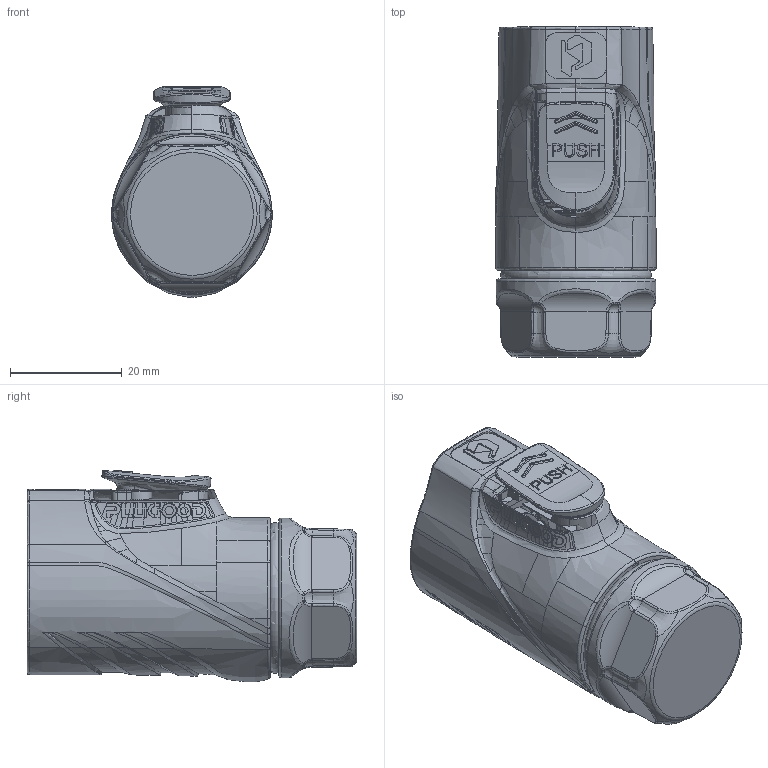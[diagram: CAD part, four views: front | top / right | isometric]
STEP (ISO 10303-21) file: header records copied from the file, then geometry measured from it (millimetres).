
FILE_DESCRIPTION (( 'STEP AP203' ), '1' );
FILE_NAME ('PLG20 3Ð¾²åÍ·.STEP', '2025-03-20T02:34:21', ( '' ), ( '' ), 'SwSTEP 2.0', 'SolidWorks 2024', '' );
FILE_SCHEMA (( 'CONFIG_CONTROL_DESIGN' ));
Products named in the file (1): PLG20 3芯插头
Bounding box: 28.77 x 59.1 x 37.93 mm (x, y, z)
Topology: 2 solids, 6 shells, 1183 faces, 3155 edges, 2000 vertices
Faces by surface type: bspline 645, plane 273, cylinder 150, torus 67, cone 38, sphere 10
Full cylindrical faces by diameter (mm): 1.5 x2, 1.519 x1, 1.6 x2, 2.5 x1, 2.65 x1, 3 x2, 3.15 x1, 3.25 x3, 4.5 x1, 16.2 x1, 17.5 x1, 17.6 x1, 19.2 x2, 19.3 x2, 19.4 x2, 22.242 x7, 28.6 x1
Entity records: 89265 total; most frequent: CARTESIAN_POINT 66033, ORIENTED_EDGE 6078, EDGE_CURVE 3039, DIRECTION 2739, VERTEX_POINT 1952, B_SPLINE_CURVE_WITH_KNOTS 1756, EDGE_LOOP 1263, FACE_OUTER_BOUND 1220
